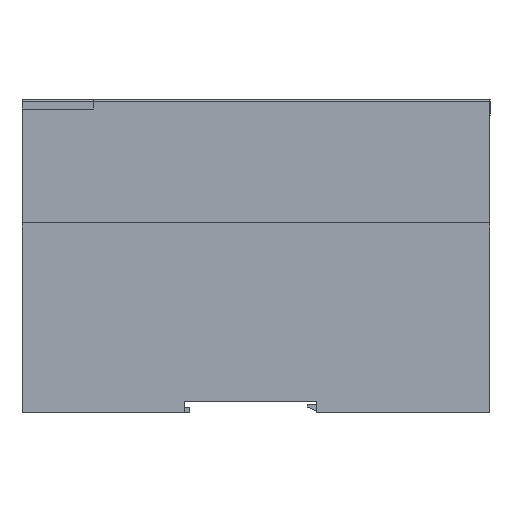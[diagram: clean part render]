
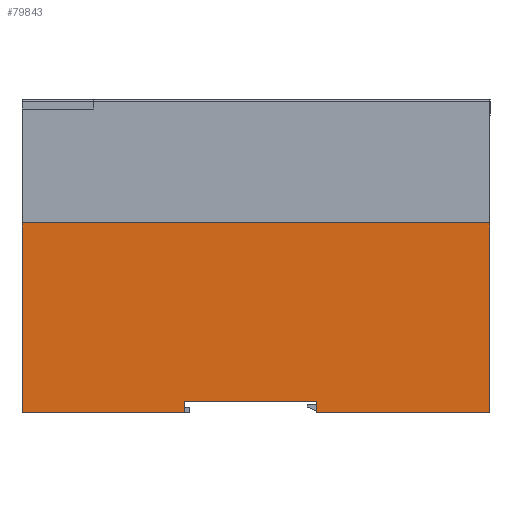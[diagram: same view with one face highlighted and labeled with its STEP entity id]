
A CAD part, left-side view. The second image highlights one B-rep face of the part: STEP entity #79843.
In plain terms, the highlighted planar face has unit normal (-1, 0, 0).
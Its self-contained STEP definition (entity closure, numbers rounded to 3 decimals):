
#2316 = DIRECTION ( 'NONE',  ( 0., -1., 0. ) ) ;
#3179 = ORIENTED_EDGE ( 'NONE', *, *, #92108, .F. ) ;
#8093 = VECTOR ( 'NONE', #191161, 1000. ) ;
#24156 = VECTOR ( 'NONE', #410769, 1000. ) ;
#29320 = LINE ( 'NONE', #260858, #8093 ) ;
#34114 = VECTOR ( 'NONE', #86474, 1000. ) ;
#35952 = ORIENTED_EDGE ( 'NONE', *, *, #69610, .T. ) ;
#44443 = VERTEX_POINT ( 'NONE', #172358 ) ;
#57180 = CARTESIAN_POINT ( 'NONE',  ( -41., 0., 0. ) ) ;
#63717 = LINE ( 'NONE', #203344, #391648 ) ;
#69610 = EDGE_CURVE ( 'NONE', #134415, #181744, #135280, .T. ) ;
#71675 = VECTOR ( 'NONE', #437327, 1000. ) ;
#79843 = ADVANCED_FACE ( 'NONE', ( #334072 ), #194008, .F. ) ;
#86474 = DIRECTION ( 'NONE',  ( 0., 0., -1. ) ) ;
#89247 = DIRECTION ( 'NONE',  ( 0., 0., -1. ) ) ;
#92108 = EDGE_CURVE ( 'NONE', #232944, #156426, #216208, .T. ) ;
#97274 = CARTESIAN_POINT ( 'NONE',  ( -41., 0., 50.3 ) ) ;
#105608 = CARTESIAN_POINT ( 'NONE',  ( -41., 46., 0. ) ) ;
#110157 = VECTOR ( 'NONE', #219890, 1000. ) ;
#113036 = CARTESIAN_POINT ( 'NONE',  ( -41., 81., 3. ) ) ;
#130924 = ORIENTED_EDGE ( 'NONE', *, *, #131388, .F. ) ;
#131388 = EDGE_CURVE ( 'NONE', #156426, #380598, #304176, .T. ) ;
#134415 = VERTEX_POINT ( 'NONE', #232607 ) ;
#135280 = LINE ( 'NONE', #305699, #71675 ) ;
#141852 = ORIENTED_EDGE ( 'NONE', *, *, #359784, .T. ) ;
#145758 = VERTEX_POINT ( 'NONE', #105608 ) ;
#150360 = VECTOR ( 'NONE', #314693, 1000. ) ;
#156426 = VERTEX_POINT ( 'NONE', #276017 ) ;
#162303 = CARTESIAN_POINT ( 'NONE',  ( -41., 46., 3. ) ) ;
#172358 = CARTESIAN_POINT ( 'NONE',  ( -41., 0., 50.3 ) ) ;
#177267 = VERTEX_POINT ( 'NONE', #351043 ) ;
#181744 = VERTEX_POINT ( 'NONE', #274023 ) ;
#191161 = DIRECTION ( 'NONE',  ( 0., 0., -1. ) ) ;
#192191 = EDGE_CURVE ( 'NONE', #181744, #380598, #63717, .T. ) ;
#194008 = PLANE ( 'NONE',  #371450 ) ;
#197095 = ORIENTED_EDGE ( 'NONE', *, *, #192191, .T. ) ;
#197517 = ORIENTED_EDGE ( 'NONE', *, *, #312441, .F. ) ;
#197844 = LINE ( 'NONE', #285013, #150360 ) ;
#198909 = EDGE_CURVE ( 'NONE', #145758, #177267, #306439, .T. ) ;
#203344 = CARTESIAN_POINT ( 'NONE',  ( -41., 0., 0. ) ) ;
#216208 = LINE ( 'NONE', #357983, #379989 ) ;
#219890 = DIRECTION ( 'NONE',  ( 0., -1., 0. ) ) ;
#226674 = DIRECTION ( 'NONE',  ( 1., 0., 0. ) ) ;
#230420 = LINE ( 'NONE', #97274, #24156 ) ;
#232607 = CARTESIAN_POINT ( 'NONE',  ( -41., 124., 50.3 ) ) ;
#232944 = VERTEX_POINT ( 'NONE', #162303 ) ;
#260858 = CARTESIAN_POINT ( 'NONE',  ( -41., 46., 3. ) ) ;
#274023 = CARTESIAN_POINT ( 'NONE',  ( -41., 124., 0. ) ) ;
#276017 = CARTESIAN_POINT ( 'NONE',  ( -41., 81., 3. ) ) ;
#285013 = CARTESIAN_POINT ( 'NONE',  ( -41., 0., 83. ) ) ;
#289573 = EDGE_LOOP ( 'NONE', ( #364888, #35952, #197095, #130924, #3179, #141852, #378800, #197517 ) ) ;
#293171 = EDGE_CURVE ( 'NONE', #134415, #44443, #230420, .T. ) ;
#304176 = LINE ( 'NONE', #113036, #34114 ) ;
#305699 = CARTESIAN_POINT ( 'NONE',  ( -41., 124., 83. ) ) ;
#306133 = CARTESIAN_POINT ( 'NONE',  ( -41., 81., 0. ) ) ;
#306439 = LINE ( 'NONE', #57180, #110157 ) ;
#312441 = EDGE_CURVE ( 'NONE', #44443, #177267, #197844, .T. ) ;
#314693 = DIRECTION ( 'NONE',  ( 0., 0., -1. ) ) ;
#334072 = FACE_OUTER_BOUND ( 'NONE', #289573, .T. ) ;
#351043 = CARTESIAN_POINT ( 'NONE',  ( -41., 0., 0. ) ) ;
#357983 = CARTESIAN_POINT ( 'NONE',  ( -41., 81., 3. ) ) ;
#359784 = EDGE_CURVE ( 'NONE', #232944, #145758, #29320, .T. ) ;
#364888 = ORIENTED_EDGE ( 'NONE', *, *, #293171, .F. ) ;
#371450 = AXIS2_PLACEMENT_3D ( 'NONE', #430869, #226674, #89247 ) ;
#378800 = ORIENTED_EDGE ( 'NONE', *, *, #198909, .T. ) ;
#379989 = VECTOR ( 'NONE', #427539, 1000. ) ;
#380598 = VERTEX_POINT ( 'NONE', #306133 ) ;
#391648 = VECTOR ( 'NONE', #2316, 1000. ) ;
#410769 = DIRECTION ( 'NONE',  ( 0., -1., 0. ) ) ;
#427539 = DIRECTION ( 'NONE',  ( 0., 1., 0. ) ) ;
#430869 = CARTESIAN_POINT ( 'NONE',  ( -41., 0., 83. ) ) ;
#437327 = DIRECTION ( 'NONE',  ( 0., 0., -1. ) ) ;
